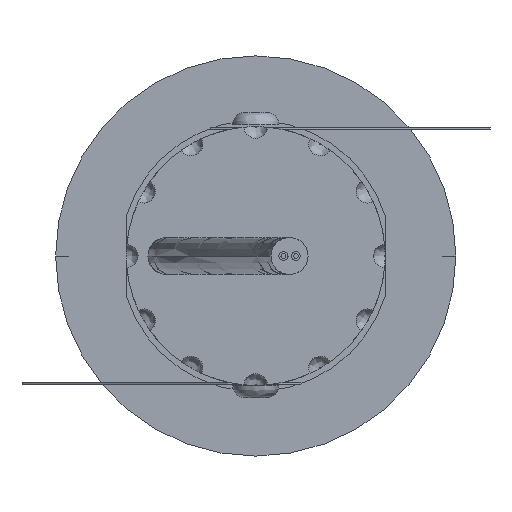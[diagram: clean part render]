
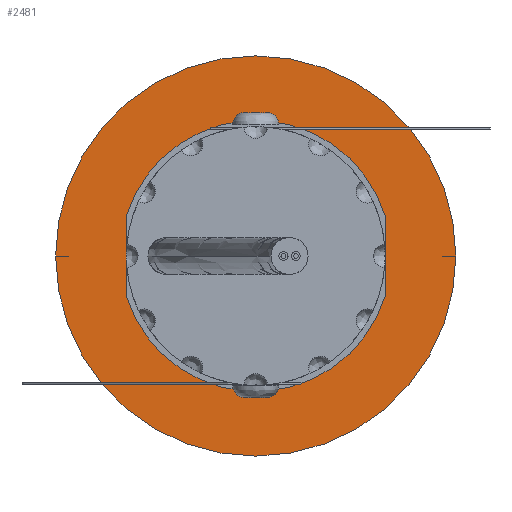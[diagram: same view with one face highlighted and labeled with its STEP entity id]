
A CAD part, front view. The second image highlights one B-rep face of the part: STEP entity #2481.
In plain terms, the highlighted planar face has unit normal (0, -1, 0).
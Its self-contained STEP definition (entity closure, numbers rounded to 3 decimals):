
#2296=CARTESIAN_POINT('',(0.,52.85,0.));
#2297=DIRECTION('',(0.,1.,0.));
#2298=DIRECTION('',(0.,0.,-1.));
#2299=AXIS2_PLACEMENT_3D('',#2296,#2297,#2298);
#2301=CARTESIAN_POINT('',(0.,52.85,0.));
#2302=DIRECTION('',(0.,1.,0.));
#2303=DIRECTION('',(0.,0.,1.));
#2304=AXIS2_PLACEMENT_3D('',#2301,#2302,#2303);
#2406=CARTESIAN_POINT('',(0.,52.85,-32.5));
#2407=CARTESIAN_POINT('',(0.,52.85,32.5));
#2408=VERTEX_POINT('',#2406);
#2409=VERTEX_POINT('',#2407);
#2470=CARTESIAN_POINT('',(0.,52.85,0.));
#2471=DIRECTION('',(0.,1.,0.));
#2472=DIRECTION('',(0.,0.,-1.));
#2473=AXIS2_PLACEMENT_3D('',#2470,#2471,#2472);
#2474=PLANE('',#2473);
#2476=ORIENTED_EDGE('',*,*,#2475,.T.);
#2478=ORIENTED_EDGE('',*,*,#2477,.T.);
#2479=EDGE_LOOP('',(#2476,#2478));
#2480=FACE_OUTER_BOUND('',#2479,.F.);
#2481=ADVANCED_FACE('',(#2480),#2474,.F.);
#2300=CIRCLE('',#2299,32.5);
#2305=CIRCLE('',#2304,32.5);
#2475=EDGE_CURVE('',#2408,#2409,#2300,.T.);
#2477=EDGE_CURVE('',#2409,#2408,#2305,.T.);
